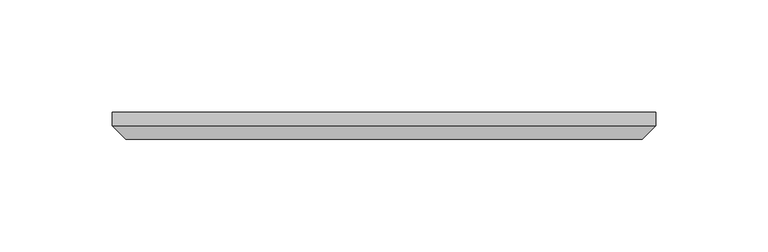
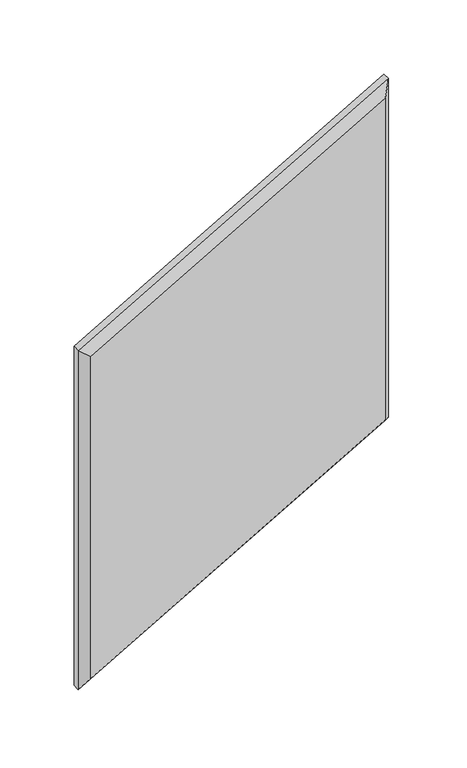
"""IFC4 building model written with IfcOpenShell, lengths in millimetres: proxy geometry, Wall_Cissu 1.3dm."""

from ifc_helpers import new_model, si_unit, origin, place, context, project, spatial, faceted_brep, source, transform, mapped, element, save


def generic_models_b56e176c(model_context):
    return source(origin(), model_context, "Body", "Brep", [
        faceted_brep([(-1343.3854926, -200.2702458, 75.8500174), (-1101.4179948, -200.2702458, 215.5500174), (-1101.4179948, -200.2702458, -63.8499826), (-1343.3854926, -200.2702458, -203.5499826), (-1343.3854926, -206.2702458, 75.8500174), (-1343.3854926, -206.2702458, -203.5499826), (-1101.4179948, -206.2702458, -63.8499826), (-1101.4179948, -206.2702458, 215.5500174), (-1107.4179948, -212.2702458, -60.385881), (-1107.4179948, -212.2702458, 205.1577125), (-1337.3854926, -212.2702458, 72.3859158), (-1337.3854926, -212.2702458, -193.1576778)], [[[0, 1, 2, 3]], [[4, 0, 3, 5]], [[5, 3, 2, 6]], [[6, 2, 1, 7]], [[7, 1, 0, 4]], [[8, 9, 10, 11]], [[4, 5, 11, 10]], [[5, 6, 8, 11]], [[6, 7, 9, 8]], [[7, 4, 10, 9]]]),
    ])


if __name__ == "__main__":
    model = new_model("IFC4")
    model_context = context("Model", 3, world=origin())
    ifc_project = project(units=[si_unit("LENGTHUNIT", "METRE", prefix="MILLI")], contexts=[model_context])
    site = spatial("IfcSite", under=ifc_project)
    building = spatial("IfcBuilding", under=site)
    placement = place(None, origin())
    generic_models_shape = generic_models_b56e176c(model_context)
    element("IfcBuildingElementProxy", 1, Name="Wall_Cissu 1.3dm", ObjectType="Wall_Cissu 1.3dm", at=placement, inside=building, context=model_context, shape_type="MappedRepresentation", body=[
        mapped(generic_models_shape, transform((0.0, 0.0, 0.0), x_axis=(1.0, 0.0, 0.0), y_axis=(0.0, 1.0, 0.0), z_axis=(0.0, 0.0, 1.0))),
    ])
    save(model, "model.ifc")
